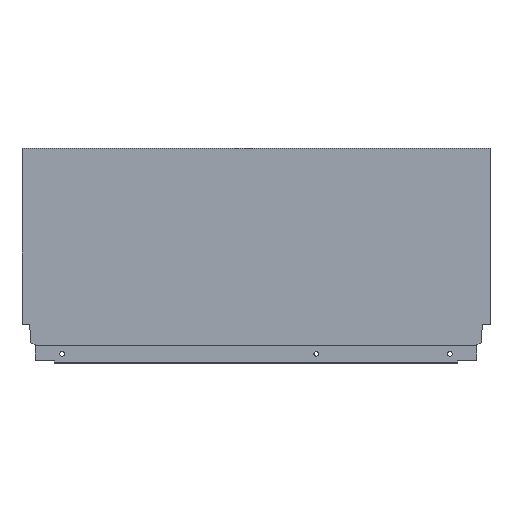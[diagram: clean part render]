
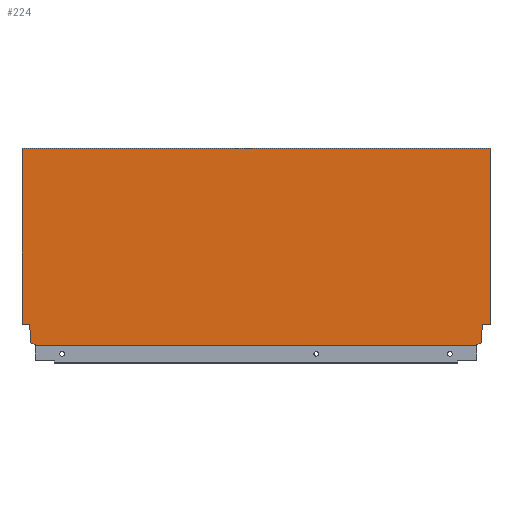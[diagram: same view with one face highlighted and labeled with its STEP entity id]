
A CAD part, top view. The second image highlights one B-rep face of the part: STEP entity #224.
In plain terms, the highlighted planar face has unit normal (0, 0, 1).
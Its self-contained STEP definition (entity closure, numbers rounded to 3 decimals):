
#16 = EDGE_CURVE ( 'NONE', #512, #502, #1174, .T. ) ;
#24 = EDGE_CURVE ( 'NONE', #871, #503, #1155, .T. ) ;
#47 = AXIS2_PLACEMENT_3D ( 'NONE', #625, #608, #607 ) ;
#71 = EDGE_CURVE ( 'NONE', #874, #876, #1133, .T. ) ;
#74 = EDGE_CURVE ( 'NONE', #487, #491, #1123, .T. ) ;
#86 = EDGE_CURVE ( 'NONE', #403, #512, #1104, .T. ) ;
#89 = EDGE_CURVE ( 'NONE', #653, #874, #1107, .T. ) ;
#90 = EDGE_CURVE ( 'NONE', #399, #469, #1097, .T. ) ;
#92 = EDGE_CURVE ( 'NONE', #493, #473, #1102, .T. ) ;
#103 = EDGE_CURVE ( 'NONE', #502, #503, #1074, .T. ) ;
#114 = EDGE_CURVE ( 'NONE', #876, #487, #1069, .T. ) ;
#156 = EDGE_CURVE ( 'NONE', #871, #653, #793, .T. ) ;
#166 = EDGE_CURVE ( 'NONE', #491, #493, #771, .T. ) ;
#189 = EDGE_CURVE ( 'NONE', #469, #403, #944, .T. ) ;
#195 = EDGE_CURVE ( 'NONE', #399, #473, #1399, .T. ) ;
#224 = ADVANCED_FACE ( 'NONE', ( #853 ), #637, .T. ) ;
#259 = CARTESIAN_POINT ( 'NONE',  ( -459.94, 21.2, 7.5 ) ) ;
#260 = CARTESIAN_POINT ( 'NONE',  ( -467., 21.2, 7.5 ) ) ;
#301 = DIRECTION ( 'NONE',  ( -0.174, -0.985, 0. ) ) ;
#319 = DIRECTION ( 'NONE',  ( 0., -1., 0. ) ) ;
#338 = CARTESIAN_POINT ( 'NONE',  ( -467., 0., 7.5 ) ) ;
#352 = CARTESIAN_POINT ( 'NONE',  ( -8.9, 10.765, 7.5 ) ) ;
#372 = CARTESIAN_POINT ( 'NONE',  ( -458.1, 10.765, 7.5 ) ) ;
#373 = DIRECTION ( 'NONE',  ( 0., 1., 0. ) ) ;
#376 = CARTESIAN_POINT ( 'NONE',  ( 0., 0., 7.5 ) ) ;
#378 = CARTESIAN_POINT ( 'NONE',  ( -13.004, 1.146, 7.5 ) ) ;
#379 = DIRECTION ( 'NONE',  ( 0., -1., 0. ) ) ;
#380 = CARTESIAN_POINT ( 'NONE',  ( -453.996, 1.146, 7.5 ) ) ;
#381 = DIRECTION ( 'NONE',  ( 0., 1., 0. ) ) ;
#386 = DIRECTION ( 'NONE',  ( 0., -1., 0. ) ) ;
#399 = VERTEX_POINT ( 'NONE', #1010 ) ;
#403 = VERTEX_POINT ( 'NONE', #1005 ) ;
#408 = DIRECTION ( 'NONE',  ( 1., 0., 0. ) ) ;
#437 = CARTESIAN_POINT ( 'NONE',  ( 0., 21.2, 7.5 ) ) ;
#440 = DIRECTION ( 'NONE',  ( 0., -1., 0. ) ) ;
#441 = DIRECTION ( 'NONE',  ( -1., 0., 0. ) ) ;
#442 = CARTESIAN_POINT ( 'NONE',  ( -8.9, 10.765, 7.5 ) ) ;
#464 = CARTESIAN_POINT ( 'NONE',  ( -459.94, 21.2, 7.5 ) ) ;
#469 = VERTEX_POINT ( 'NONE', #547 ) ;
#473 = VERTEX_POINT ( 'NONE', #550 ) ;
#482 = DIRECTION ( 'NONE',  ( -0.174, 0.985, 0. ) ) ;
#487 = VERTEX_POINT ( 'NONE', #352 ) ;
#491 = VERTEX_POINT ( 'NONE', #574 ) ;
#493 = VERTEX_POINT ( 'NONE', #575 ) ;
#502 = VERTEX_POINT ( 'NONE', #259 ) ;
#503 = VERTEX_POINT ( 'NONE', #260 ) ;
#512 = VERTEX_POINT ( 'NONE', #1023 ) ;
#518 = CARTESIAN_POINT ( 'NONE',  ( -467., 196.7, 7.5 ) ) ;
#547 = CARTESIAN_POINT ( 'NONE',  ( -453.996, 1.146, 7.5 ) ) ;
#550 = CARTESIAN_POINT ( 'NONE',  ( -13.004, 0., 7.5 ) ) ;
#574 = CARTESIAN_POINT ( 'NONE',  ( -8.9, 2.64, 7.5 ) ) ;
#575 = CARTESIAN_POINT ( 'NONE',  ( -13.004, 1.146, 7.5 ) ) ;
#607 = DIRECTION ( 'NONE',  ( 1., 0., 0. ) ) ;
#608 = DIRECTION ( 'NONE',  ( 0., 0., 1. ) ) ;
#625 = CARTESIAN_POINT ( 'NONE',  ( -467., 0., 7.5 ) ) ;
#637 = PLANE ( 'NONE',  #47 ) ;
#653 = VERTEX_POINT ( 'NONE', #780 ) ;
#659 = DIRECTION ( 'NONE',  ( -0.94, -0.342, 0. ) ) ;
#660 = CARTESIAN_POINT ( 'NONE',  ( -8.9, 2.64, 7.5 ) ) ;
#732 = CARTESIAN_POINT ( 'NONE',  ( -467., 196.7, 7.5 ) ) ;
#766 = VECTOR ( 'NONE', #659, 1000. ) ;
#771 = LINE ( 'NONE', #660, #766 ) ;
#780 = CARTESIAN_POINT ( 'NONE',  ( 0., 196.7, 7.5 ) ) ;
#791 = VECTOR ( 'NONE', #408, 1000. ) ;
#793 = LINE ( 'NONE', #518, #791 ) ;
#830 = DIRECTION ( 'NONE',  ( -1., 0., 0. ) ) ;
#836 = CARTESIAN_POINT ( 'NONE',  ( -472., 21.2, 7.5 ) ) ;
#853 = FACE_OUTER_BOUND ( 'NONE', #1225, .T. ) ;
#854 = CARTESIAN_POINT ( 'NONE',  ( -7.06, 21.2, 7.5 ) ) ;
#871 = VERTEX_POINT ( 'NONE', #732 ) ;
#874 = VERTEX_POINT ( 'NONE', #940 ) ;
#876 = VERTEX_POINT ( 'NONE', #1035 ) ;
#930 = CARTESIAN_POINT ( 'NONE',  ( -458.1, 2.64, 7.5 ) ) ;
#935 = VECTOR ( 'NONE', #938, 1000. ) ;
#938 = DIRECTION ( 'NONE',  ( -0.94, 0.342, 0. ) ) ;
#940 = CARTESIAN_POINT ( 'NONE',  ( 0., 21.2, 7.5 ) ) ;
#944 = LINE ( 'NONE', #930, #935 ) ;
#996 = CARTESIAN_POINT ( 'NONE',  ( -467., 0., 7.5 ) ) ;
#1001 = DIRECTION ( 'NONE',  ( 1., 0., 0. ) ) ;
#1005 = CARTESIAN_POINT ( 'NONE',  ( -458.1, 2.64, 7.5 ) ) ;
#1010 = CARTESIAN_POINT ( 'NONE',  ( -453.996, 0., 7.5 ) ) ;
#1023 = CARTESIAN_POINT ( 'NONE',  ( -458.1, 10.765, 7.5 ) ) ;
#1035 = CARTESIAN_POINT ( 'NONE',  ( -7.06, 21.2, 7.5 ) ) ;
#1046 = VECTOR ( 'NONE', #301, 1000. ) ;
#1069 = LINE ( 'NONE', #854, #1046 ) ;
#1073 = VECTOR ( 'NONE', #830, 1000. ) ;
#1074 = LINE ( 'NONE', #836, #1073 ) ;
#1093 = VECTOR ( 'NONE', #319, 1000. ) ;
#1096 = VECTOR ( 'NONE', #381, 1000. ) ;
#1097 = LINE ( 'NONE', #380, #1096 ) ;
#1099 = VECTOR ( 'NONE', #379, 1000. ) ;
#1102 = LINE ( 'NONE', #378, #1093 ) ;
#1103 = VECTOR ( 'NONE', #373, 1000. ) ;
#1104 = LINE ( 'NONE', #372, #1103 ) ;
#1107 = LINE ( 'NONE', #376, #1099 ) ;
#1123 = LINE ( 'NONE', #442, #1125 ) ;
#1125 = VECTOR ( 'NONE', #440, 1000. ) ;
#1126 = VECTOR ( 'NONE', #441, 1000. ) ;
#1133 = LINE ( 'NONE', #437, #1126 ) ;
#1148 = VECTOR ( 'NONE', #386, 1000. ) ;
#1155 = LINE ( 'NONE', #338, #1148 ) ;
#1156 = ORIENTED_EDGE ( 'NONE', *, *, #195, .T. ) ;
#1174 = LINE ( 'NONE', #464, #1178 ) ;
#1178 = VECTOR ( 'NONE', #482, 1000. ) ;
#1225 = EDGE_LOOP ( 'NONE', ( #1274, #1273, #1272, #1271, #1270, #1269, #1156, #1268, #1267, #1266, #1265, #1264, #1263, #1261 ) ) ;
#1261 = ORIENTED_EDGE ( 'NONE', *, *, #156, .F. ) ;
#1263 = ORIENTED_EDGE ( 'NONE', *, *, #89, .F. ) ;
#1264 = ORIENTED_EDGE ( 'NONE', *, *, #71, .F. ) ;
#1265 = ORIENTED_EDGE ( 'NONE', *, *, #114, .F. ) ;
#1266 = ORIENTED_EDGE ( 'NONE', *, *, #74, .F. ) ;
#1267 = ORIENTED_EDGE ( 'NONE', *, *, #166, .F. ) ;
#1268 = ORIENTED_EDGE ( 'NONE', *, *, #92, .F. ) ;
#1269 = ORIENTED_EDGE ( 'NONE', *, *, #90, .F. ) ;
#1270 = ORIENTED_EDGE ( 'NONE', *, *, #189, .F. ) ;
#1271 = ORIENTED_EDGE ( 'NONE', *, *, #86, .F. ) ;
#1272 = ORIENTED_EDGE ( 'NONE', *, *, #16, .F. ) ;
#1273 = ORIENTED_EDGE ( 'NONE', *, *, #103, .F. ) ;
#1274 = ORIENTED_EDGE ( 'NONE', *, *, #24, .T. ) ;
#1399 = LINE ( 'NONE', #996, #1405 ) ;
#1405 = VECTOR ( 'NONE', #1001, 1000. ) ;
